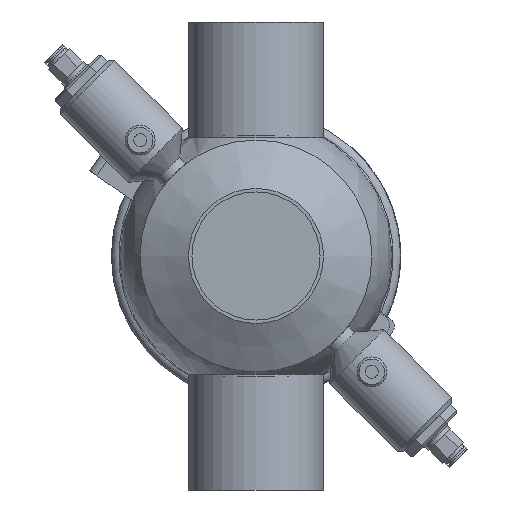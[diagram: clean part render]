
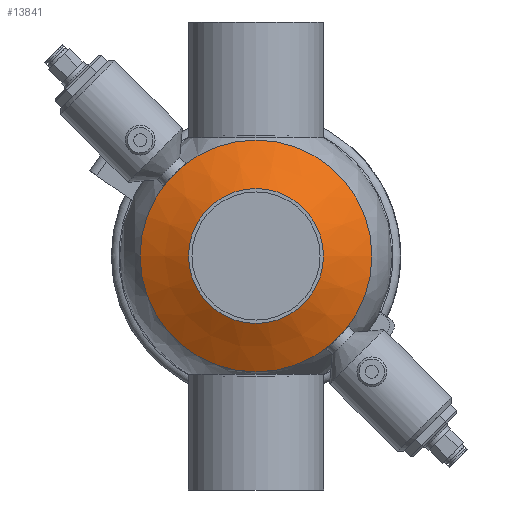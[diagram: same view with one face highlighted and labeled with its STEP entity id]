
A CAD part, front view. The second image highlights one B-rep face of the part: STEP entity #13841.
In plain terms, the highlighted conical face has half-angle 60 degrees and reference radius 54.5 mm.
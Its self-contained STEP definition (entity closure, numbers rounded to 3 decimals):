
#281 = CARTESIAN_POINT ( 'NONE',  ( 0., -71.135, 0. ) ) ;
#844 = CIRCLE ( 'NONE', #3881, 54.5 ) ;
#1350 = CONICAL_SURFACE ( 'NONE', #15522, 54.5, 1.047 ) ;
#1892 = EDGE_CURVE ( 'NONE', #10440, #10440, #844, .T. ) ;
#2079 = DIRECTION ( 'NONE',  ( 0., 0., 1. ) ) ;
#3587 = CARTESIAN_POINT ( 'NONE',  ( 0., -71.135, 31.75 ) ) ;
#3881 = AXIS2_PLACEMENT_3D ( 'NONE', #4590, #13473, #11445 ) ;
#4590 = CARTESIAN_POINT ( 'NONE',  ( 0., -58., 0. ) ) ;
#4736 = AXIS2_PLACEMENT_3D ( 'NONE', #281, #9385, #2079 ) ;
#5063 = ORIENTED_EDGE ( 'NONE', *, *, #1892, .F. ) ;
#6996 = CARTESIAN_POINT ( 'NONE',  ( 0., -58., 0. ) ) ;
#7110 = DIRECTION ( 'NONE',  ( 0., 1., 0. ) ) ;
#9385 = DIRECTION ( 'NONE',  ( 0., 1., 0. ) ) ;
#10098 = CARTESIAN_POINT ( 'NONE',  ( 0., -58., 54.5 ) ) ;
#10440 = VERTEX_POINT ( 'NONE', #10098 ) ;
#11445 = DIRECTION ( 'NONE',  ( 0., 0., 1. ) ) ;
#12477 = EDGE_CURVE ( 'NONE', #20040, #20040, #21194, .T. ) ;
#13473 = DIRECTION ( 'NONE',  ( 0., 1., 0. ) ) ;
#13841 = ADVANCED_FACE ( 'NONE', ( #16237, #23551 ), #1350, .T. ) ;
#14800 = EDGE_LOOP ( 'NONE', ( #19845 ) ) ;
#15522 = AXIS2_PLACEMENT_3D ( 'NONE', #6996, #7110, #23667 ) ;
#16237 = FACE_BOUND ( 'NONE', #14800, .T. ) ;
#19845 = ORIENTED_EDGE ( 'NONE', *, *, #12477, .T. ) ;
#20040 = VERTEX_POINT ( 'NONE', #3587 ) ;
#20299 = EDGE_LOOP ( 'NONE', ( #5063 ) ) ;
#21194 = CIRCLE ( 'NONE', #4736, 31.75 ) ;
#23551 = FACE_OUTER_BOUND ( 'NONE', #20299, .T. ) ;
#23667 = DIRECTION ( 'NONE',  ( 0., 0., 1. ) ) ;
